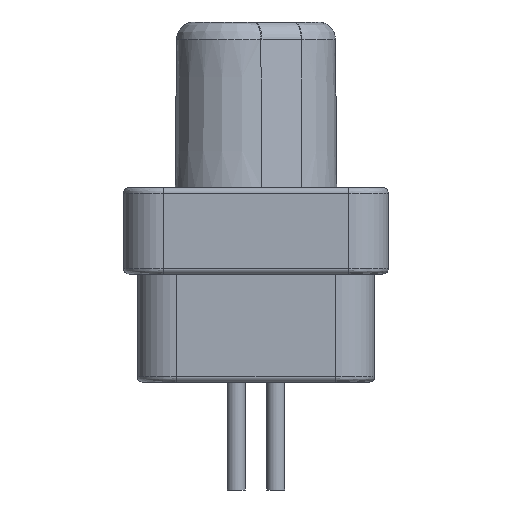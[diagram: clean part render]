
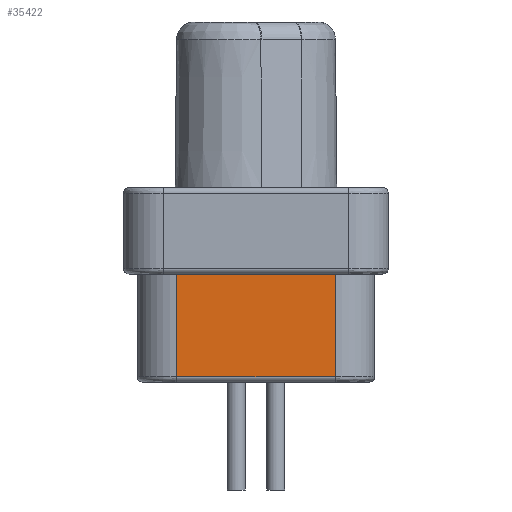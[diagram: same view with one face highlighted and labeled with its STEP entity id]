
A CAD part, left-side view. The second image highlights one B-rep face of the part: STEP entity #35422.
In plain terms, the highlighted planar face has unit normal (-1, 0, 0).
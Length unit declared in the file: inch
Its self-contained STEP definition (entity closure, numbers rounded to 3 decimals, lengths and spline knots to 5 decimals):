
#305 = FACE_OUTER_BOUND ( 'NONE', #22115, .T. ) ;
#5193 = VERTEX_POINT ( 'NONE', #15089 ) ;
#5317 = CARTESIAN_POINT ( 'NONE',  ( -0.39272, -0.2313, -0.33169 ) ) ;
#8407 = VECTOR ( 'NONE', #36031, 39.37008 ) ;
#8896 = LINE ( 'NONE', #37101, #43292 ) ;
#9349 = DIRECTION ( 'NONE',  ( 0., 1., 0. ) ) ;
#9866 = DIRECTION ( 'NONE',  ( 1., 0., 0. ) ) ;
#11299 = EDGE_CURVE ( 'NONE', #14935, #35125, #48856, .T. ) ;
#13238 = ORIENTED_EDGE ( 'NONE', *, *, #13688, .F. ) ;
#13565 = DIRECTION ( 'NONE',  ( 0., 1., 0. ) ) ;
#13688 = EDGE_CURVE ( 'NONE', #35125, #5193, #39414, .T. ) ;
#14935 = VERTEX_POINT ( 'NONE', #48041 ) ;
#15089 = CARTESIAN_POINT ( 'NONE',  ( -0.39272, -0.05807, -0.3878 ) ) ;
#16853 = VECTOR ( 'NONE', #9349, 39.37008 ) ;
#21309 = CARTESIAN_POINT ( 'NONE',  ( -0.39272, -0.23476, -0.39004 ) ) ;
#21803 = PLANE ( 'NONE',  #34008 ) ;
#22115 = EDGE_LOOP ( 'NONE', ( #32642, #49279, #13238, #29324 ) ) ;
#28610 = CARTESIAN_POINT ( 'NONE',  ( -0.39272, -0.14469, -0.27559 ) ) ;
#29324 = ORIENTED_EDGE ( 'NONE', *, *, #11299, .F. ) ;
#31234 = LINE ( 'NONE', #28610, #43188 ) ;
#32642 = ORIENTED_EDGE ( 'NONE', *, *, #33232, .T. ) ;
#33232 = EDGE_CURVE ( 'NONE', #14935, #37650, #31234, .T. ) ;
#34008 = AXIS2_PLACEMENT_3D ( 'NONE', #21309, #9866, #40591 ) ;
#34088 = CARTESIAN_POINT ( 'NONE',  ( -0.39272, -0.2313, -0.3878 ) ) ;
#34615 = CARTESIAN_POINT ( 'NONE',  ( -0.39272, -0.05807, -0.27559 ) ) ;
#35125 = VERTEX_POINT ( 'NONE', #34088 ) ;
#35422 = ADVANCED_FACE ( 'NONE', ( #305 ), #21803, .F. ) ;
#36031 = DIRECTION ( 'NONE',  ( 0., 0., -1. ) ) ;
#37101 = CARTESIAN_POINT ( 'NONE',  ( -0.39272, -0.05807, -0.33169 ) ) ;
#37599 = DIRECTION ( 'NONE',  ( 0., 0., -1. ) ) ;
#37650 = VERTEX_POINT ( 'NONE', #34615 ) ;
#39414 = LINE ( 'NONE', #47052, #16853 ) ;
#40591 = DIRECTION ( 'NONE',  ( 0., 1., 0. ) ) ;
#42971 = EDGE_CURVE ( 'NONE', #37650, #5193, #8896, .T. ) ;
#43188 = VECTOR ( 'NONE', #13565, 39.37008 ) ;
#43292 = VECTOR ( 'NONE', #37599, 39.37008 ) ;
#47052 = CARTESIAN_POINT ( 'NONE',  ( -0.39272, -0.14469, -0.3878 ) ) ;
#48041 = CARTESIAN_POINT ( 'NONE',  ( -0.39272, -0.2313, -0.27559 ) ) ;
#48856 = LINE ( 'NONE', #5317, #8407 ) ;
#49279 = ORIENTED_EDGE ( 'NONE', *, *, #42971, .T. ) ;
